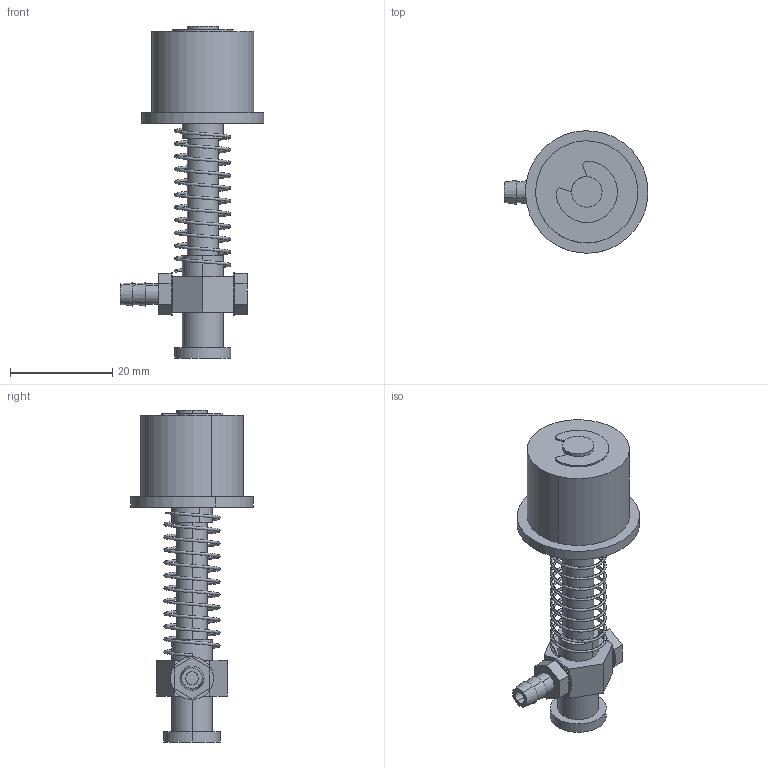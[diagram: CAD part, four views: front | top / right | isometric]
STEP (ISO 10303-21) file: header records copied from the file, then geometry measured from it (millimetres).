
FILE_DESCRIPTION (( 'STEP AP214' ), '1' );
FILE_NAME ('VFM-2020.STEP', '2019-11-16T02:06:08', ( '微软用户' ), ( '微软中国' ), 'SwSTEP 2.0', 'SolidWorks 2016', '' );
FILE_SCHEMA (( 'AUTOMOTIVE_DESIGN' ));
Length unit declared in the file: millimetre
Products named in the file (1): VFM-2020
Bounding box: 28.19 x 23.98 x 65 mm (x, y, z)
Volume: 8609.3 mm3; surface area: 6116.1 mm2
Topology: 9 solids, 9 shells, 140 faces, 329 edges, 217 vertices
Faces by surface type: cylinder 72, plane 56, cone 6, bspline 6
Entity records: 10572 total; most frequent: CARTESIAN_POINT 5784, ORIENTED_EDGE 654, DIRECTION 625, EDGE_CURVE 327, AXIS2_PLACEMENT_3D 237, VERTEX_POINT 217, EDGE_LOOP 164, VECTOR 151
